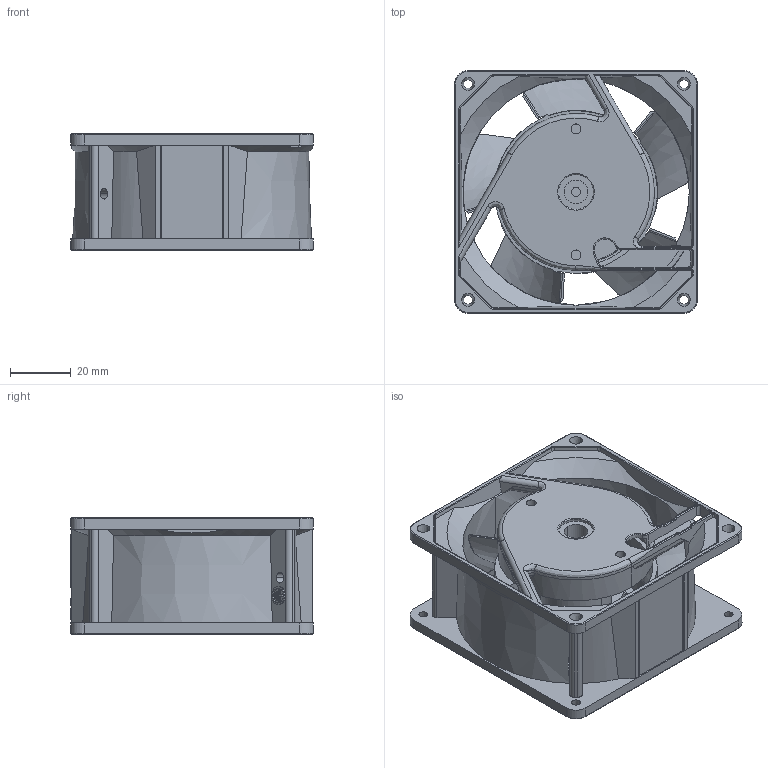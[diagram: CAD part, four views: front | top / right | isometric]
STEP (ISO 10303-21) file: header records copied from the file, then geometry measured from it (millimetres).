
FILE_DESCRIPTION((''),'2;1');
FILE_NAME('ASM8038_ASM','2019-07-22T',('Administrator'),(''),'PRO/ENGINEER BY PARAMETRIC TECHNOLOGY CORPORATION, 2011370','PRO/ENGINEER BY PARAMETRIC TECHNOLOGY CORPORATION, 2011370','');
FILE_SCHEMA(('CONFIG_CONTROL_DESIGN'));
Length unit declared in the file: millimetre
Products named in the file (3): 8038; 8038YE; ASM8038_ASM
Assembly tree (2 placements, depth 2):
  ASM8038_ASM
    8038
    8038YE
Bounding box: 79.92 x 79.92 x 38.27 mm (x, y, z)
Volume: 64235.1 mm3; surface area: 53655.9 mm2
Topology: 2 solids, 2 shells, 805 faces, 2252 edges, 1488 vertices
Faces by surface type: plane 487, cylinder 136, cone 72, bspline 71, torus 38, extrusion 1
Entity records: 32321 total; most frequent: CARTESIAN_POINT 12331, ORIENTED_EDGE 4504, DIRECTION 3606, EDGE_CURVE 2252, VERTEX_POINT 1488, VECTOR 1352, LINE 1351, AXIS2_PLACEMENT_3D 1127
